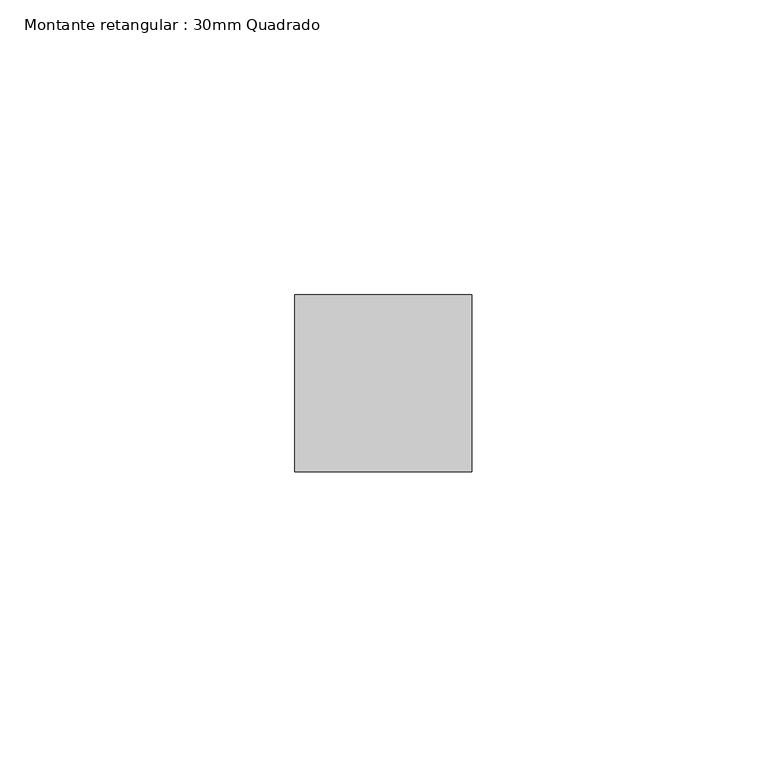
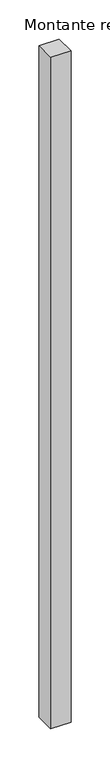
"""IFC4 building model written with IfcOpenShell, lengths in millimetres: member geometry, Montante retangular : 30mm Quadrado."""

import ifcopenshell
import ifcopenshell.guid

model = None  # the IFC model being written
_history = None  # IfcOwnerHistory: only IFC2X3 demands one
_inside = {}  # id of a spatial element -> (the spatial element, [elements in it])
_under = {}  # id of a project, library or spatial element -> (it, [spatial elements below it])
_declared = {}  # id of a project -> (the project, [libraries it declares])
_typed = {}  # id of a type object -> (the type object, [elements of that type])
_made_of = {}  # id of a material, layer set ... -> (it, [elements and type objects made of it])


def new_model(schema):
    """Start an empty IFC model of exactly this schema.

    Asked for "IFC4X3", IfcOpenShell would pick the latest addendum, in which some entities
    have other attributes; the version numbers below select the first issue.
    IFC2X3 requires an IfcOwnerHistory on every rooted entity: one is made here for all.
    """
    global model, _history
    if schema == "IFC4X3":
        model = ifcopenshell.file(schema_version=(4, 3, 0, 0))
    else:
        model = ifcopenshell.file(schema=schema)
    _inside.clear()
    _under.clear()
    _declared.clear()
    _typed.clear()
    _made_of.clear()
    _history = None
    if model.schema == "IFC2X3":
        org = make("IfcOrganization", Name="unknown")
        user = make(
            "IfcPersonAndOrganization",
            ThePerson=make("IfcPerson", FamilyName="unknown"),
            TheOrganization=org,
        )
        app = make(
            "IfcApplication",
            ApplicationDeveloper=org,
            Version="unknown",
            ApplicationFullName="unknown",
            ApplicationIdentifier="unknown",
        )
        _history = make(
            "IfcOwnerHistory",
            OwningUser=user,
            OwningApplication=app,
            ChangeAction="ADDED",
            CreationDate=0,
        )
    return model


def make(cls, **values):
    """One entity of the class cls with the attributes given. An attribute that is None is left unset."""
    return model.create_entity(
        cls, **{name: value for name, value in values.items() if value is not None}
    )


def rooted(cls, **values):
    """An entity with a GlobalId (a new one), such as an element, a storey or a relation."""
    return make(cls, GlobalId=ifcopenshell.guid.new(), OwnerHistory=_history, **values)


def si_unit(unit_type, name, prefix=None):
    """IfcSIUnit, for example si_unit("LENGTHUNIT", "METRE", prefix="MILLI")."""
    return make("IfcSIUnit", UnitType=unit_type, Prefix=prefix, Name=name)


def assignment(units):
    """IfcUnitAssignment: the units of a project."""
    return None if units is None else make("IfcUnitAssignment", Units=units)


def point(xyz):
    """IfcCartesianPoint."""
    return None if xyz is None else make("IfcCartesianPoint", Coordinates=xyz)


def direction(xyz):
    """IfcDirection."""
    return None if xyz is None else make("IfcDirection", DirectionRatios=xyz)


def frame(location, z_axis=None, x_axis=None):
    """IfcAxis2Placement3D, a coordinate frame: its origin and axes. An axis left out is left unset."""
    return make(
        "IfcAxis2Placement3D",
        Location=point(location),
        Axis=direction(z_axis),
        RefDirection=direction(x_axis),
    )


def origin():
    """The frame at (0, 0, 0) with its axes left unset."""
    return frame((0.0, 0.0, 0.0))


def place(relative_to, where):
    """IfcLocalPlacement: puts the frame where relative to a parent placement (None: the world)."""
    return make(
        "IfcLocalPlacement", PlacementRelTo=relative_to, RelativePlacement=where
    )


def context(
    kind, dimensions, precision=None, world=None, true_north=None, identifier=None
):
    """IfcGeometricRepresentationContext, for example the 3D "Model" context."""
    return make(
        "IfcGeometricRepresentationContext",
        ContextIdentifier=identifier,
        ContextType=kind,
        CoordinateSpaceDimension=dimensions,
        Precision=precision,
        WorldCoordinateSystem=world,
        TrueNorth=true_north,
    )


def project(units=None, contexts=None):
    """IfcProject with its units and contexts."""
    return rooted(
        "IfcProject",
        Name="project",
        RepresentationContexts=contexts,
        UnitsInContext=assignment(units),
    )


def spatial(cls, under=None, at=None, **own):
    """A site, building, storey or space (cls), placed at a placement, below another one or the project."""
    s = rooted(cls, ObjectPlacement=at, **own)
    if under is not None:
        _under.setdefault(under.id(), (under, []))[1].append(s)
    return s


def polyline(points):
    """IfcPolyline through the points."""
    return make("IfcPolyline", Points=[point(p) for p in points])


def outline(outer, holes=None, kind="AREA"):
    """IfcArbitraryClosedProfileDef: a profile drawn as a closed curve; with holes, ...WithVoids."""
    if holes is None:
        return make("IfcArbitraryClosedProfileDef", ProfileType=kind, OuterCurve=outer)
    return make(
        "IfcArbitraryProfileDefWithVoids",
        ProfileType=kind,
        OuterCurve=outer,
        InnerCurves=holes,
    )


def extrude(swept, where, along, depth):
    """IfcExtrudedAreaSolid: the profile swept, set in the frame where, extruded along a direction by depth."""
    return make(
        "IfcExtrudedAreaSolid",
        SweptArea=swept,
        Position=where,
        ExtrudedDirection=direction(along),
        Depth=depth,
    )


def shape(context_of_items, identifier, shape_type, items):
    """IfcShapeRepresentation: the items that make up one representation, for example the "Body"."""
    return make(
        "IfcShapeRepresentation",
        ContextOfItems=context_of_items,
        RepresentationIdentifier=identifier,
        RepresentationType=shape_type,
        Items=items,
    )


def source(mapping_origin, context_of_items, identifier, shape_type, items):
    """IfcRepresentationMap: a shape defined once, which mapped items show again and again."""
    return make(
        "IfcRepresentationMap",
        MappingOrigin=mapping_origin,
        MappedRepresentation=shape(context_of_items, identifier, shape_type, items),
    )


def transform(
    local_origin,
    x_axis=None,
    y_axis=None,
    z_axis=None,
    scale=None,
    scale2=None,
    scale3=None,
    uniform=True,
):
    """IfcCartesianTransformationOperator3D, or its non-uniform kind. x_axis, y_axis, z_axis: its Axis1, 2, 3."""
    if uniform:
        return make(
            "IfcCartesianTransformationOperator3D",
            Axis1=direction(x_axis),
            Axis2=direction(y_axis),
            LocalOrigin=point(local_origin),
            Scale=scale,
            Axis3=direction(z_axis),
        )
    return make(
        "IfcCartesianTransformationOperator3DnonUniform",
        Axis1=direction(x_axis),
        Axis2=direction(y_axis),
        LocalOrigin=point(local_origin),
        Scale=scale,
        Axis3=direction(z_axis),
        Scale2=scale2,
        Scale3=scale3,
    )


def mapped(mapping_source, mapping_target):
    """IfcMappedItem: shows the shape of a source again, moved by a transform."""
    return make(
        "IfcMappedItem", MappingSource=mapping_source, MappingTarget=mapping_target
    )


def made_of(thing, what):
    """Note that an element or type object is made of a material, layer set ...; save() writes the relation."""
    if what is not None:
        _made_of.setdefault(what.id(), (what, []))[1].append(thing)
    return thing


def element(
    cls,
    number,
    at=None,
    inside=None,
    cuts=None,
    type_object=None,
    material=None,
    context=None,
    identifier="Body",
    shape_type=None,
    held_by="IfcProductDefinitionShape",
    body=None,
    shapes=None,
    **own,
):
    """One element of the class cls, such as IfcWall. Its Tag is "e" and its number.

    at: its placement. inside: the storey or other place that contains it. cuts: it is an
    opening in that element (IfcRelVoidsElement). A single representation is given by context,
    identifier, shape_type and body (its items); several are given by shapes. held_by: the class
    of the entity that holds the representations. save() writes the other relations.
    """
    e = rooted(cls, Tag="e%d" % number, ObjectPlacement=at, **own)
    if body is not None:
        shapes = [shape(context, identifier, shape_type, body)]
    if shapes is not None:
        e.Representation = make(held_by, Representations=shapes)
    if inside is not None:
        _inside.setdefault(inside.id(), (inside, []))[1].append(e)
    if cuts is not None:
        rooted(
            "IfcRelVoidsElement", RelatingBuildingElement=cuts, RelatedOpeningElement=e
        )
    if type_object is not None:
        _typed.setdefault(type_object.id(), (type_object, []))[1].append(e)
    return made_of(e, material)


def aggregate(whole, parts):
    """IfcRelAggregates: a whole, such as a stair, and the parts it consists of."""
    return rooted("IfcRelAggregates", RelatingObject=whole, RelatedObjects=parts)


def save(model, path):
    """Write the relations noted so far, then the file.

    IfcRelAggregates (storeys below a building ...), IfcRelContainedInSpatialStructure (elements
    in a storey), IfcRelDefinesByType, IfcRelAssociatesMaterial and IfcRelDeclares: one each for
    every whole, place, type object, material and project.
    """
    for whole, parts in _under.values():
        aggregate(whole, parts)
    for where, things in _inside.values():
        rooted(
            "IfcRelContainedInSpatialStructure",
            RelatedElements=things,
            RelatingStructure=where,
        )
    for kind, things in _typed.values():
        rooted("IfcRelDefinesByType", RelatedObjects=things, RelatingType=kind)
    for what, things in _made_of.values():
        rooted("IfcRelAssociatesMaterial", RelatedObjects=things, RelatingMaterial=what)
    for by, libraries in _declared.values():
        rooted("IfcRelDeclares", RelatingContext=by, RelatedDefinitions=libraries)
    model.write(path)


def montante_retangular_30mm_quadrado_54fe6a28(model_context):
    return source(origin(), model_context, "Body", "SweptSolid", [
        extrude(outline(polyline([(15.0, 15.0), (15.0, -15.0), (-15.0, -15.0), (-15.0, 15.0), (15.0, 15.0)])), frame((0.0, 0.0, -1050.0), z_axis=(0.0, 0.0, 1.0), x_axis=(1.0, 0.0, 0.0)), (0.0, 0.0, 1.0), 1050.0),
    ])


if __name__ == "__main__":
    model = new_model("IFC4")
    model_context = context("Model", 3, world=origin())
    ifc_project = project(units=[si_unit("LENGTHUNIT", "METRE", prefix="MILLI")], contexts=[model_context])
    site = spatial("IfcSite", under=ifc_project)
    building = spatial("IfcBuilding", under=site)
    placement = place(None, origin())
    montante_retangular_30mm_quadrado_shape = montante_retangular_30mm_quadrado_54fe6a28(model_context)
    element("IfcMember", 1, ObjectType="Montante retangular : 30mm Quadrado", at=placement, inside=building, context=model_context, shape_type="MappedRepresentation", body=[
        mapped(montante_retangular_30mm_quadrado_shape, transform((0.0, 0.0, 0.0), x_axis=(1.0, 0.0, 0.0), y_axis=(0.0, 1.0, 0.0), z_axis=(0.0, 0.0, 1.0))),
    ])
    save(model, "model.ifc")
